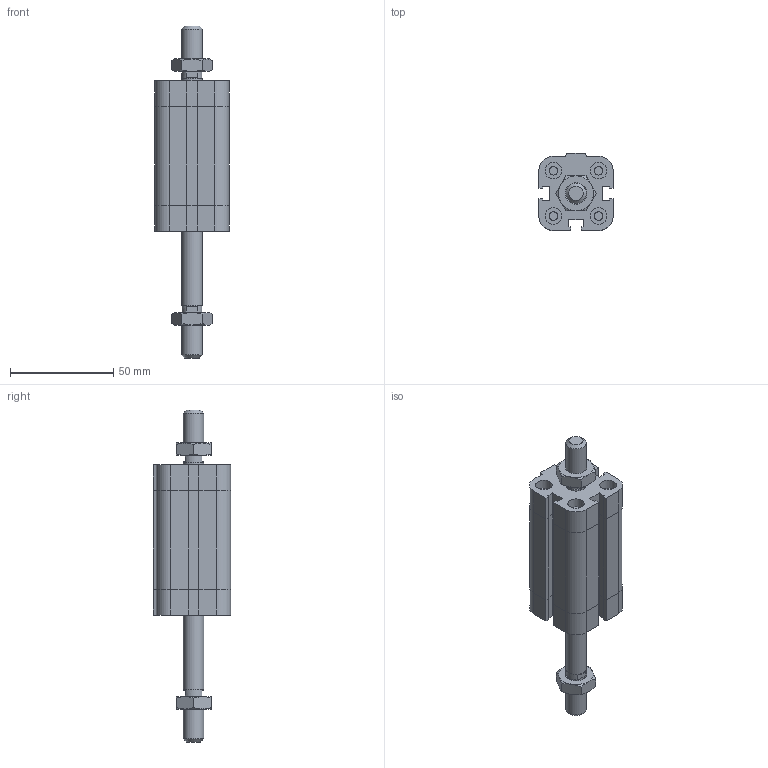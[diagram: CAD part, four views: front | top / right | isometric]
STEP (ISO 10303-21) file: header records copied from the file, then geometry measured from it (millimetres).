
FILE_DESCRIPTION((''),'2;1');
FILE_NAME('I:\Area Tecnica\Disegni\VARIE-3D\Componenti\EUROPE\15##_###_####_04_#\1581_20_0035_04_1.iam.stp','2009-04-20T14:49:54',(''),(''),'Autodesk Inventor 2009','Autodesk Inventor 2009','');
FILE_SCHEMA(('AUTOMOTIVE_DESIGN { 1 0 10303 214 1 1 1 1 }'));
Length unit declared in the file: millimetre
Products named in the file (4): 1581_20_0035_04_1; 1581_20_0035_03_1_C; 1561_20_0035_04_1_S; DBFM10
Assembly tree (4 placements, depth 2):
  1581_20_0035_04_1
    1581_20_0035_03_1_C
    1561_20_0035_04_1_S
    DBFM10  x2
Bounding box: 36 x 37.5 x 161 mm (x, y, z)
Volume: 90570.1 mm3; surface area: 26882.9 mm2
Topology: 4 solids, 4 shells, 222 faces, 483 edges, 289 vertices
Faces by surface type: plane 129, cone 35, bspline 33, cylinder 25
Full cylindrical faces by diameter (mm): 4.134 x4, 7.9 x1, 8 x4, 9.8 x2, 10 x2
Entity records: 5450 total; most frequent: CARTESIAN_POINT 1222, DIRECTION 802, ORIENTED_EDGE 772, EDGE_CURVE 386, AXIS2_PLACEMENT_3D 272, EDGE_LOOP 258, VECTOR 258, LINE 258
